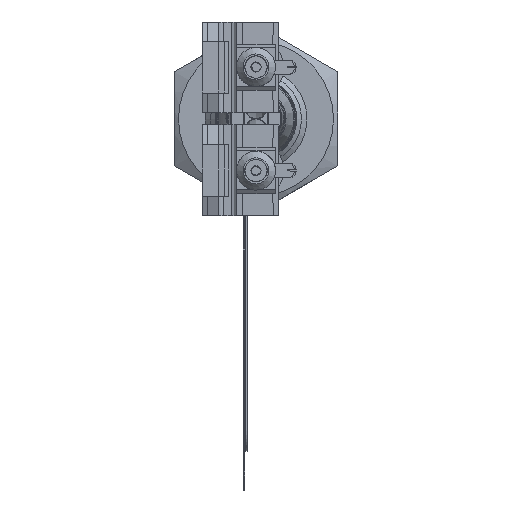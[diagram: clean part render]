
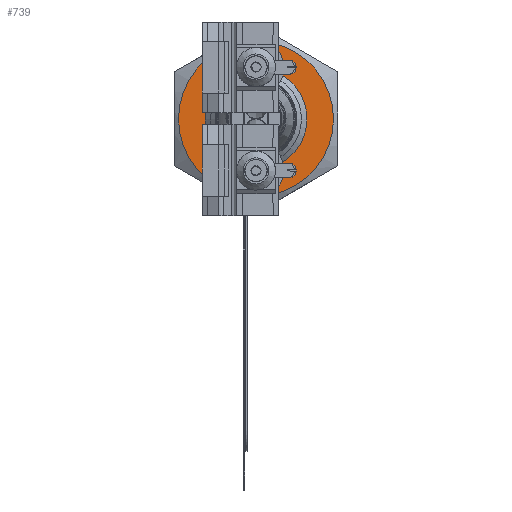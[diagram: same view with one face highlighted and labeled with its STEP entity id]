
A CAD part, left-side view. The second image highlights one B-rep face of the part: STEP entity #739.
In plain terms, the highlighted planar face has unit normal (-1, 0, 0) as drawn and (0, 0, -1) by its records, which use the part's own axes.
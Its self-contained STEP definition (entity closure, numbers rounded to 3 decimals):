
#739=ADVANCED_FACE('',(#11028,#11030),#11032,.F.);
#11028=FACE_BOUND('',#11029,.T.);
#11029=EDGE_LOOP('',(#24354));
#11030=FACE_BOUND('',#11031,.T.);
#11031=EDGE_LOOP('',(#24355));
#11032=PLANE('',#11033);
#11033=AXIS2_PLACEMENT_3D('',#11034,#11035,#11036);
#11034=CARTESIAN_POINT('',(0.,0.,0.));
#11035=DIRECTION('',(0.,0.,1.));
#11036=DIRECTION('',(1.,0.,0.));
#24354=ORIENTED_EDGE('',*,*,#32170,.T.);
#24355=ORIENTED_EDGE('',*,*,#32171,.T.);
#32170=EDGE_CURVE('',#35406,#35406,#35407,.T.);
#32171=EDGE_CURVE('',#35408,#35408,#35409,.T.);
#35406=VERTEX_POINT('',#41414);
#35407=CIRCLE('',#41415,7.6);
#35408=VERTEX_POINT('',#41419);
#35409=CIRCLE('',#41420,5.);
#41414=CARTESIAN_POINT('',(0.,7.6,0.));
#41415=AXIS2_PLACEMENT_3D('',#41416,#41417,#41418);
#41416=CARTESIAN_POINT('',(0.,0.,0.));
#41417=DIRECTION('',(0.,0.,-1.));
#41418=DIRECTION('',(0.,1.,0.));
#41419=CARTESIAN_POINT('',(5.,0.,0.));
#41420=AXIS2_PLACEMENT_3D('',#41421,#41422,#41423);
#41421=CARTESIAN_POINT('',(0.,0.,0.));
#41422=DIRECTION('',(0.,0.,1.));
#41423=DIRECTION('',(1.,0.,0.));
